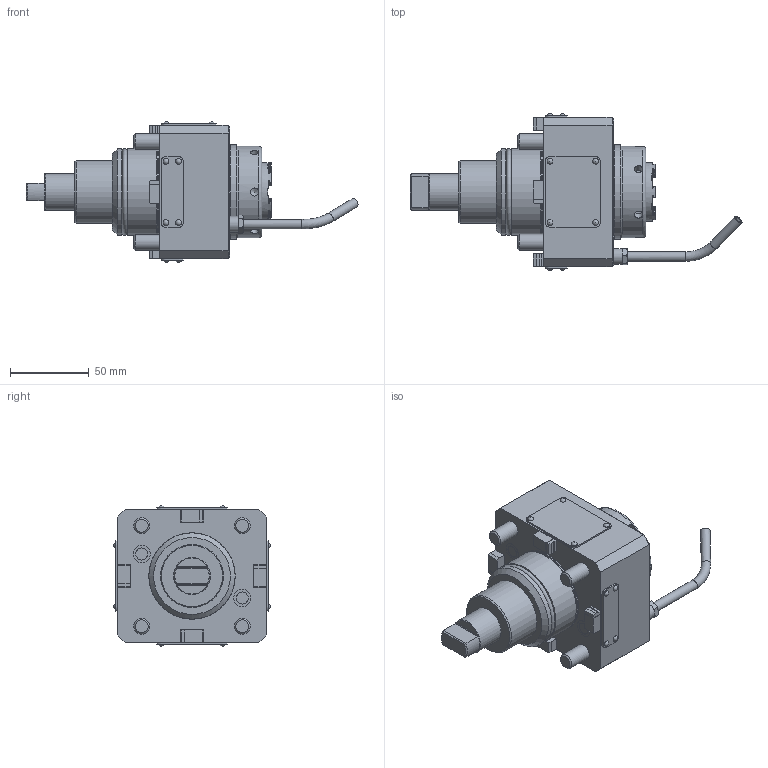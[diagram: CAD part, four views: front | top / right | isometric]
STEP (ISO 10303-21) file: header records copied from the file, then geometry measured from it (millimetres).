
FILE_DESCRIPTION(/* description */ (''),/* implementation_level */ '2;1');
FILE_NAME(/* name */ '202567-UNI',/* time_stamp */ '2023-04-19T11:02:58+02:00',/* author */ (''),/* organization */ (''),/* preprocessor_version */ 'ST-DEVELOPER v16.5',/* originating_system */ 'HiCAD 2017 2201.0 Build 268',/* authorisation */ '');
FILE_SCHEMA (('AUTOMOTIVE_DESIGN { 1 0 10303 214 1 1 1 1 }'));
Length unit declared in the file: millimetre
Products named in the file (2): Root; Teil
Assembly tree (1 placements, depth 2):
  Root
    Teil
Bounding box: 211.17 x 99.58 x 89.6 mm (x, y, z)
Volume: 511646.6 mm3; surface area: 76630.1 mm2
Topology: 2 solids, 19 shells, 653 faces, 1710 edges, 1132 vertices
Faces by surface type: plane 411, cylinder 167, cone 31, torus 28, sphere 16
Full cylindrical faces by diameter (mm): 2 x16, 2.2 x4, 2.3 x12, 4 x2, 5.1 x6, 6 x3, 7.65 x2, 10 x5, 11.01 x2, 16 x4, 18 x4, 20 x1, 23.5 x2, 24 x1, 27 x2, 29 x1, 29.4 x1, 37.5 x1, 38 x1, 38.5 x2, 39.6 x1, 40 x2, 40.5 x1, 49.9 x2, 50 x1, 54.5 x1, 54.9 x2, 56 x1, 58 x1, 60 x1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
Entity records: 35791 total; most frequent: CARTESIAN_POINT 5863, DIRECTION 3138, PRESENTATION_STYLE_ASSIGNMENT 2965, COLOUR_RGB 2965, DRAUGHTING_PRE_DEFINED_CURVE_FONT 2964, CURVE_STYLE 2964, OVER_RIDING_STYLED_ITEM 2964, ORIENTED_EDGE 2964
